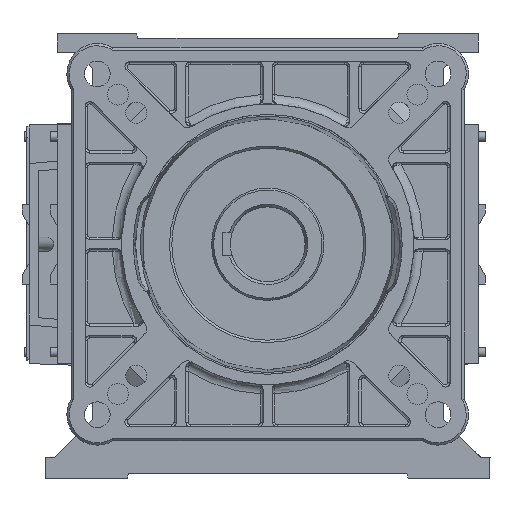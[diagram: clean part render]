
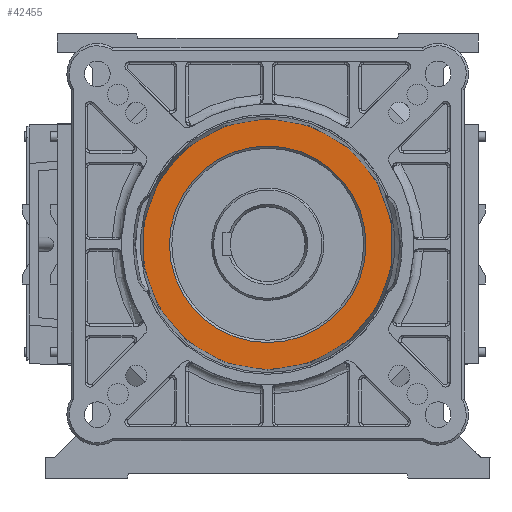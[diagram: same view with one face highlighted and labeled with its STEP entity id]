
A CAD part, left-side view. The second image highlights one B-rep face of the part: STEP entity #42455.
In plain terms, the highlighted planar face has unit normal (-1, 0, 0) as drawn and (0, 0, 1) by its records, which use the part's own axes.
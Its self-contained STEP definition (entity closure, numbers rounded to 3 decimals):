
#1613=FACE_BOUND('',#8469,.T.);
#3128=CIRCLE('',#44505,53.5);
#3909=CIRCLE('',#46072,42.);
#6010=FACE_OUTER_BOUND('',#8468,.T.);
#8468=EDGE_LOOP('',(#32573));
#8469=EDGE_LOOP('',(#32574));
#17281=VERTEX_POINT('',#63414);
#18539=VERTEX_POINT('',#71745);
#21721=EDGE_CURVE('',#17281,#17281,#3128,.T.);
#23707=EDGE_CURVE('',#18539,#18539,#3909,.T.);
#32573=ORIENTED_EDGE('',*,*,#21721,.F.);
#32574=ORIENTED_EDGE('',*,*,#23707,.F.);
#40770=PLANE('',#46073);
#42455=ADVANCED_FACE('',(#6010,#1613),#40770,.T.);
#44505=AXIS2_PLACEMENT_3D('',#63415,#50330,#50331);
#46072=AXIS2_PLACEMENT_3D('',#71746,#54257,#54258);
#46073=AXIS2_PLACEMENT_3D('',#71747,#54259,#54260);
#50330=DIRECTION('center_axis',(0.,0.,-1.));
#50331=DIRECTION('ref_axis',(0.,1.,0.));
#54257=DIRECTION('center_axis',(0.,0.,1.));
#54258=DIRECTION('ref_axis',(-1.,0.,0.));
#54259=DIRECTION('center_axis',(0.,0.,1.));
#54260=DIRECTION('ref_axis',(1.,0.,0.));
#63414=CARTESIAN_POINT('',(61.376,-14.366,54.));
#63415=CARTESIAN_POINT('Origin',(61.376,-67.866,54.));
#71745=CARTESIAN_POINT('',(103.376,-67.866,54.));
#71746=CARTESIAN_POINT('Origin',(61.376,-67.866,54.));
#71747=CARTESIAN_POINT('Origin',(61.376,-20.616,54.));
